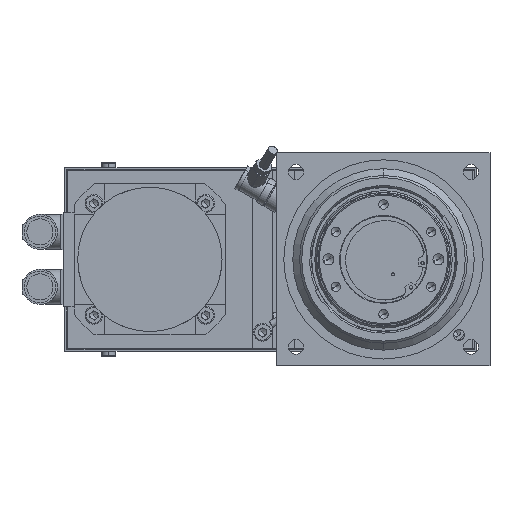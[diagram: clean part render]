
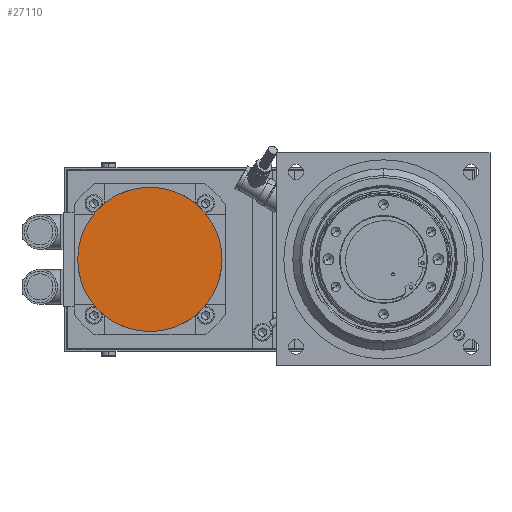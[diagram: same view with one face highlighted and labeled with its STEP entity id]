
A CAD part, front view. The second image highlights one B-rep face of the part: STEP entity #27110.
In plain terms, the highlighted planar face has unit normal (0, -1, 0).
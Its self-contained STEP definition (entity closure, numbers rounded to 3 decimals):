
#3207 = AXIS2_PLACEMENT_3D ( 'NONE', #5653, #47564, #11673 ) ;
#3579 = ORIENTED_EDGE ( 'NONE', *, *, #24468, .T. ) ;
#4283 = CARTESIAN_POINT ( 'NONE',  ( -222.47, 177.5, 0. ) ) ;
#4923 = DIRECTION ( 'NONE',  ( -1., 0., 0. ) ) ;
#5653 = CARTESIAN_POINT ( 'NONE',  ( -169.97, 177.5, 0. ) ) ;
#11433 = CIRCLE ( 'NONE', #3207, 52.5 ) ;
#11673 = DIRECTION ( 'NONE',  ( -1., 0., 0. ) ) ;
#16606 = CIRCLE ( 'NONE', #41355, 52.5 ) ;
#19152 = PLANE ( 'NONE',  #27897 ) ;
#24468 = EDGE_CURVE ( 'NONE', #30716, #41428, #11433, .T. ) ;
#25486 = DIRECTION ( 'NONE',  ( 0., 1., 0. ) ) ;
#27110 = ADVANCED_FACE ( 'NONE', ( #28963 ), #19152, .F. ) ;
#27897 = AXIS2_PLACEMENT_3D ( 'NONE', #61375, #25486, #67423 ) ;
#28339 = CARTESIAN_POINT ( 'NONE',  ( -117.47, 177.5, 0. ) ) ;
#28963 = FACE_OUTER_BOUND ( 'NONE', #46621, .T. ) ;
#30716 = VERTEX_POINT ( 'NONE', #28339 ) ;
#40830 = DIRECTION ( 'NONE',  ( 0., -1., 0. ) ) ;
#41355 = AXIS2_PLACEMENT_3D ( 'NONE', #76754, #40830, #4923 ) ;
#41428 = VERTEX_POINT ( 'NONE', #4283 ) ;
#42689 = ORIENTED_EDGE ( 'NONE', *, *, #76970, .T. ) ;
#46621 = EDGE_LOOP ( 'NONE', ( #42689, #3579 ) ) ;
#47564 = DIRECTION ( 'NONE',  ( 0., -1., 0. ) ) ;
#61375 = CARTESIAN_POINT ( 'NONE',  ( -114.97, 177.5, 55. ) ) ;
#67423 = DIRECTION ( 'NONE',  ( 1., 0., 0. ) ) ;
#76754 = CARTESIAN_POINT ( 'NONE',  ( -169.97, 177.5, 0. ) ) ;
#76970 = EDGE_CURVE ( 'NONE', #41428, #30716, #16606, .T. ) ;
